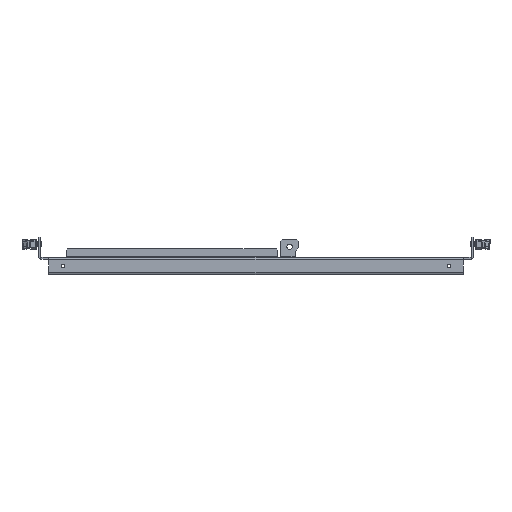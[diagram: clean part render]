
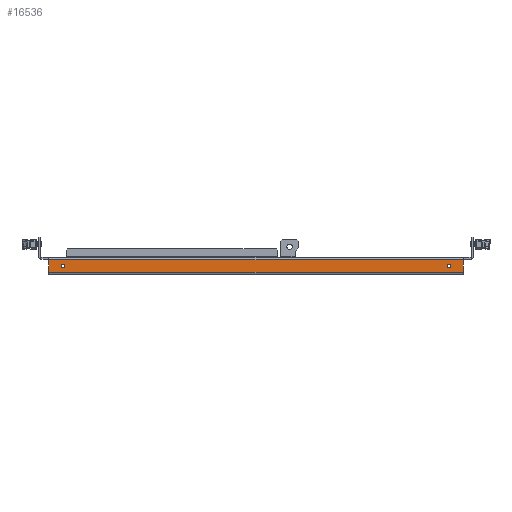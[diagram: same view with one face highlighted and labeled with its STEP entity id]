
A CAD part, front view. The second image highlights one B-rep face of the part: STEP entity #16536.
In plain terms, the highlighted planar face has unit normal (0, -1, 0).
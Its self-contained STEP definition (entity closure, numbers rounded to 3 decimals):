
#15741=CARTESIAN_POINT(' ',(-221.5,-211.7,-7.8));
#15742=VERTEX_POINT(' ',#15741);
#15756=CARTESIAN_POINT(' ',(-221.5,-211.7,-10.));
#15761=DIRECTION(' ',(0.,-1.,0.));
#15766=DIRECTION(' ',(0.,0.,1.));
#15771=AXIS2_PLACEMENT_3D(' ',#15756,#15761,#15766);
#15776=CIRCLE('',#15771,2.2);
#15781=CARTESIAN_POINT(' ',(-221.5,-211.7,-12.2));
#15782=VERTEX_POINT(' ',#15781);
#15786=EDGE_CURVE(' ',#15742,#15782,#15776,.T.);
#16201=CARTESIAN_POINT(' ',(-221.5,-211.7,-10.));
#16206=DIRECTION(' ',(-0.,-1.,0.));
#16211=DIRECTION(' ',(0.,0.,-1.));
#16216=AXIS2_PLACEMENT_3D(' ',#16201,#16206,#16211);
#16221=CIRCLE('',#16216,2.2);
#16226=EDGE_CURVE(' ',#15782,#15742,#16221,.T.);
#16251=DIRECTION(' ',(0.,-1.,0.));
#16256=CARTESIAN_POINT(' ',(-238.,-211.7,-17.4));
#16261=DIRECTION(' ',(1.,0.,0.));
#16266=AXIS2_PLACEMENT_3D(' ',#16256,#16251,#16261);
#16271=PLANE('NONE',#16266);
#16276=CARTESIAN_POINT(' ',(-238.,-211.7,-2.6));
#16281=DIRECTION(' ',(1.,0.,0.));
#16286=VECTOR(' ',#16281,1.);
#16291=LINE('',#16276,#16286);
#16296=CARTESIAN_POINT(' ',(-238.,-211.7,-2.6));
#16297=VERTEX_POINT(' ',#16296);
#16301=CARTESIAN_POINT(' ',(238.,-211.7,-2.6));
#16302=VERTEX_POINT(' ',#16301);
#16306=EDGE_CURVE(' ',#16297,#16302,#16291,.T.);
#16311=ORIENTED_EDGE(' ',*,*,#16306,.F.);
#16316=CARTESIAN_POINT(' ',(-238.,-211.7,-2.6));
#16321=DIRECTION(' ',(0.,0.,-1.));
#16326=VECTOR(' ',#16321,1.);
#16331=LINE('',#16316,#16326);
#16336=CARTESIAN_POINT(' ',(-238.,-211.7,-17.4));
#16337=VERTEX_POINT(' ',#16336);
#16341=EDGE_CURVE(' ',#16297,#16337,#16331,.T.);
#16346=ORIENTED_EDGE(' ',*,*,#16341,.T.);
#16351=CARTESIAN_POINT(' ',(-238.,-211.7,-17.4));
#16356=DIRECTION(' ',(1.,0.,0.));
#16361=VECTOR(' ',#16356,1.);
#16366=LINE('',#16351,#16361);
#16371=CARTESIAN_POINT(' ',(238.,-211.7,-17.4));
#16372=VERTEX_POINT(' ',#16371);
#16376=EDGE_CURVE(' ',#16337,#16372,#16366,.T.);
#16381=ORIENTED_EDGE(' ',*,*,#16376,.T.);
#16386=CARTESIAN_POINT(' ',(238.,-211.7,-17.4));
#16391=DIRECTION(' ',(0.,0.,1.));
#16396=VECTOR(' ',#16391,1.);
#16401=LINE('',#16386,#16396);
#16406=EDGE_CURVE(' ',#16372,#16302,#16401,.T.);
#16411=ORIENTED_EDGE(' ',*,*,#16406,.T.);
#16416=EDGE_LOOP(' ',(#16311,#16346,#16381,#16411));
#16421=FACE_OUTER_BOUND(' ',#16416,.T.);
#16426=ORIENTED_EDGE(' ',*,*,#16226,.F.);
#16431=ORIENTED_EDGE(' ',*,*,#15786,.F.);
#16436=EDGE_LOOP(' ',(#16426,#16431));
#16441=FACE_BOUND(' ',#16436,.T.);
#16446=CARTESIAN_POINT(' ',(221.5,-211.7,-10.));
#16451=DIRECTION(' ',(-0.,-1.,0.));
#16456=DIRECTION(' ',(0.,0.,-1.));
#16461=AXIS2_PLACEMENT_3D(' ',#16446,#16451,#16456);
#16466=CIRCLE('',#16461,2.2);
#16471=CARTESIAN_POINT(' ',(221.5,-211.7,-12.2));
#16472=VERTEX_POINT(' ',#16471);
#16476=CARTESIAN_POINT(' ',(221.5,-211.7,-7.8));
#16477=VERTEX_POINT(' ',#16476);
#16481=EDGE_CURVE(' ',#16472,#16477,#16466,.T.);
#16486=ORIENTED_EDGE(' ',*,*,#16481,.F.);
#16491=CARTESIAN_POINT(' ',(221.5,-211.7,-10.));
#16496=DIRECTION(' ',(0.,-1.,0.));
#16501=DIRECTION(' ',(0.,0.,1.));
#16506=AXIS2_PLACEMENT_3D(' ',#16491,#16496,#16501);
#16511=CIRCLE('',#16506,2.2);
#16516=EDGE_CURVE(' ',#16477,#16472,#16511,.T.);
#16521=ORIENTED_EDGE(' ',*,*,#16516,.F.);
#16526=EDGE_LOOP(' ',(#16486,#16521));
#16531=FACE_BOUND(' ',#16526,.T.);
#16536=ADVANCED_FACE('NONE',(#16421,#16441,#16531),#16271,.T.);
